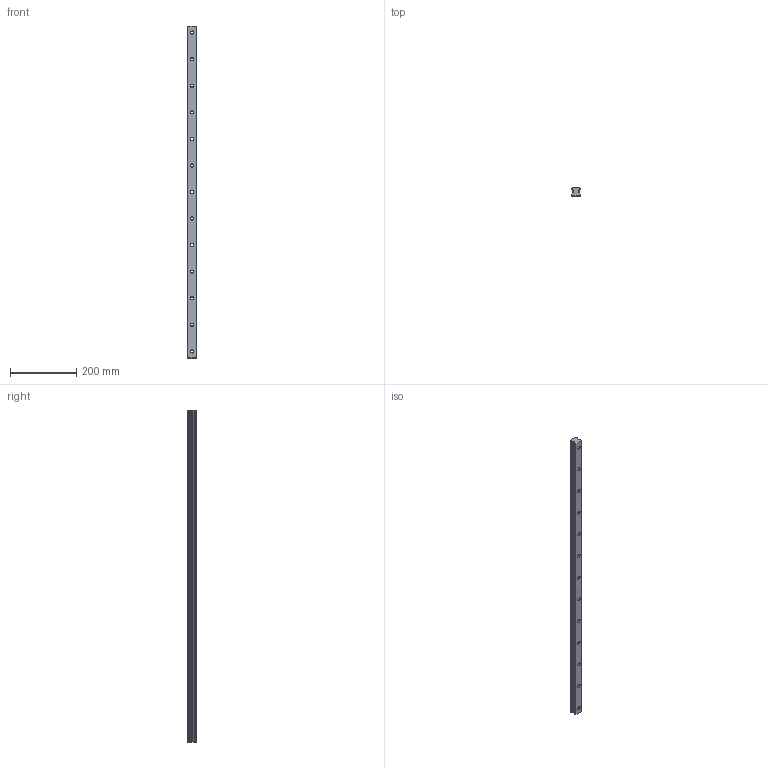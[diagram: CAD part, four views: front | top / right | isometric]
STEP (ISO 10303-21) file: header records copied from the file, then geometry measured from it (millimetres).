
FILE_DESCRIPTION(/* description */ (''),/* implementation_level */ '2;1');
FILE_NAME(/* name */ 'C:\Users\daviddillkoetter\ownCloud\Kamp und Kötter\Artikel\KPN_Profilführungen\Step\KPNR-30.stp',/* time_stamp */ '2021-01-27T11:19:25+01:00',/* author */ ('daviddillkoetter'),/* organization */ (''),/* preprocessor_version */ 'ST-DEVELOPER v18.1',/* originating_system */ 'Autodesk Inventor 2021',/* authorisation */ '');
FILE_SCHEMA (('AUTOMOTIVE_DESIGN { 1 0 10303 214 3 1 1 }'));
Length unit declared in the file: millimetre
Products named in the file (1): KPNR
Bounding box: 28 x 26 x 1000 mm (x, y, z)
Volume: 571875.5 mm3; surface area: 123329.1 mm2
Topology: 1 solids, 1 shells, 134 faces, 334 edges, 215 vertices
Faces by surface type: plane 57, cylinder 43, cone 34
Full cylindrical faces by diameter (mm): 9 x13, 14 x13
Entity records: 4190 total; most frequent: CARTESIAN_POINT 822, DIRECTION 719, ORIENTED_EDGE 668, EDGE_CURVE 334, AXIS2_PLACEMENT_3D 280, VERTEX_POINT 215, EDGE_LOOP 173, LINE 159
